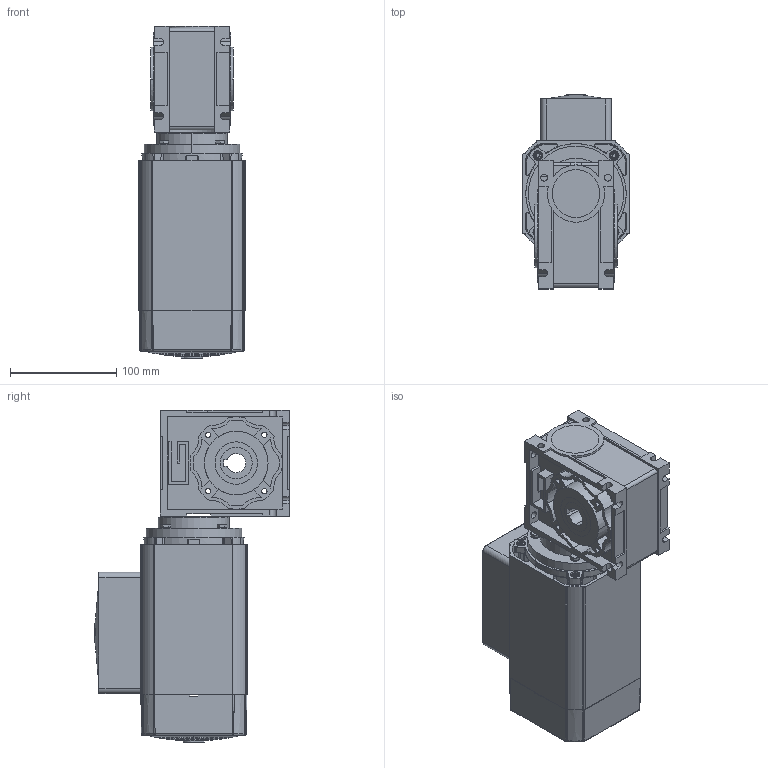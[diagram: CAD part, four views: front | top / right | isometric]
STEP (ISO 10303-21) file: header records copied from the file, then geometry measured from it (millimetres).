
FILE_DESCRIPTION (( 'STEP AP203' ), '1' );
FILE_NAME ('AC9060FC-RA4000T.STEP', '2008-06-30T20:52:19', ( 'eng-rjs' ), ( 'groschopp' ), 'SwSTEP 2.0', 'SolidWorks 2008', '' );
FILE_SCHEMA (( 'CONFIG_CONTROL_DESIGN' ));
Products named in the file (1): AC9060FC-RA4000T
Bounding box: 100.43 x 183.46 x 313.08 mm (x, y, z)
Surface area: 299141.2 mm2 (no closed solid volume)
Topology: 0 solids, 34 shells, 1239 faces, 4039 edges, 2739 vertices
Faces by surface type: plane 735, cylinder 329, cone 88, bspline 40, torus 37, sphere 10
Entity records: 46488 total; most frequent: CARTESIAN_POINT 10733, DIRECTION 7992, ORIENTED_EDGE 6780, EDGE_CURVE 4031, AXIS2_PLACEMENT_3D 3058, VERTEX_POINT 2739, VECTOR 1876, LINE 1876
